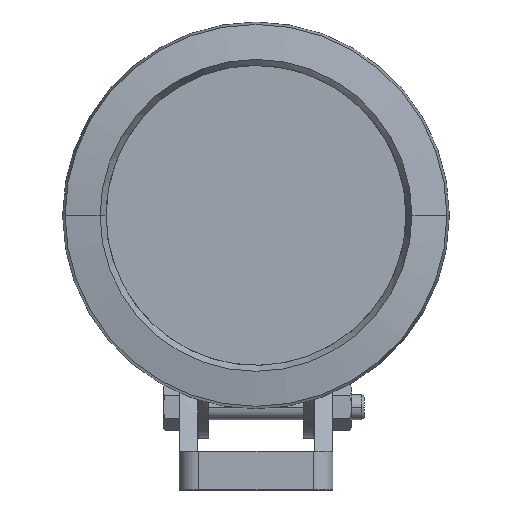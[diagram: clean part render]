
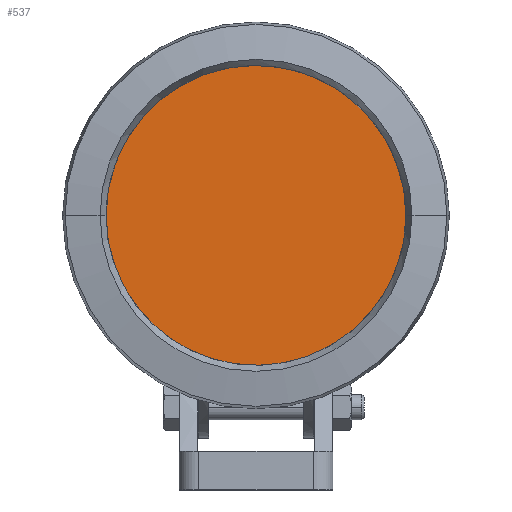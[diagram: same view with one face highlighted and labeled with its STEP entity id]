
A CAD part, top view. The second image highlights one B-rep face of the part: STEP entity #537.
In plain terms, the highlighted planar face has unit normal (0, 0, 1).
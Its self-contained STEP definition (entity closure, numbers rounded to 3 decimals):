
#537 = ADVANCED_FACE ( 'NONE', ( #12919 ), #8517, .T. ) ;
#2084 = DIRECTION ( 'NONE',  ( 1., 0., 0. ) ) ;
#5463 = CARTESIAN_POINT ( 'NONE',  ( -47.066, 0., -9.144 ) ) ;
#6372 = DIRECTION ( 'NONE',  ( 0., 0., 1. ) ) ;
#8130 = VERTEX_POINT ( 'NONE', #18618 ) ;
#8214 = AXIS2_PLACEMENT_3D ( 'NONE', #12091, #27535, #14315 ) ;
#8517 = PLANE ( 'NONE',  #28509 ) ;
#8913 = CARTESIAN_POINT ( 'NONE',  ( 0., 0., -9.144 ) ) ;
#10776 = CARTESIAN_POINT ( 'NONE',  ( 0., 0., -9.144 ) ) ;
#11172 = DIRECTION ( 'NONE',  ( 1., 0., 0. ) ) ;
#12091 = CARTESIAN_POINT ( 'NONE',  ( 0., 0., -9.144 ) ) ;
#12096 = ORIENTED_EDGE ( 'NONE', *, *, #20289, .T. ) ;
#12919 = FACE_OUTER_BOUND ( 'NONE', #16174, .T. ) ;
#14315 = DIRECTION ( 'NONE',  ( 1., 0., 0. ) ) ;
#14863 = VERTEX_POINT ( 'NONE', #5463 ) ;
#14959 = CIRCLE ( 'NONE', #8214, 47.066 ) ;
#16174 = EDGE_LOOP ( 'NONE', ( #12096, #24560 ) ) ;
#16202 = EDGE_CURVE ( 'NONE', #14863, #8130, #22602, .T. ) ;
#18618 = CARTESIAN_POINT ( 'NONE',  ( 47.066, 0., -9.144 ) ) ;
#19856 = AXIS2_PLACEMENT_3D ( 'NONE', #8913, #24412, #11172 ) ;
#20289 = EDGE_CURVE ( 'NONE', #8130, #14863, #14959, .T. ) ;
#22602 = CIRCLE ( 'NONE', #19856, 47.066 ) ;
#24412 = DIRECTION ( 'NONE',  ( 0., 0., 1. ) ) ;
#24560 = ORIENTED_EDGE ( 'NONE', *, *, #16202, .T. ) ;
#27535 = DIRECTION ( 'NONE',  ( 0., 0., 1. ) ) ;
#28509 = AXIS2_PLACEMENT_3D ( 'NONE', #10776, #6372, #2084 ) ;
